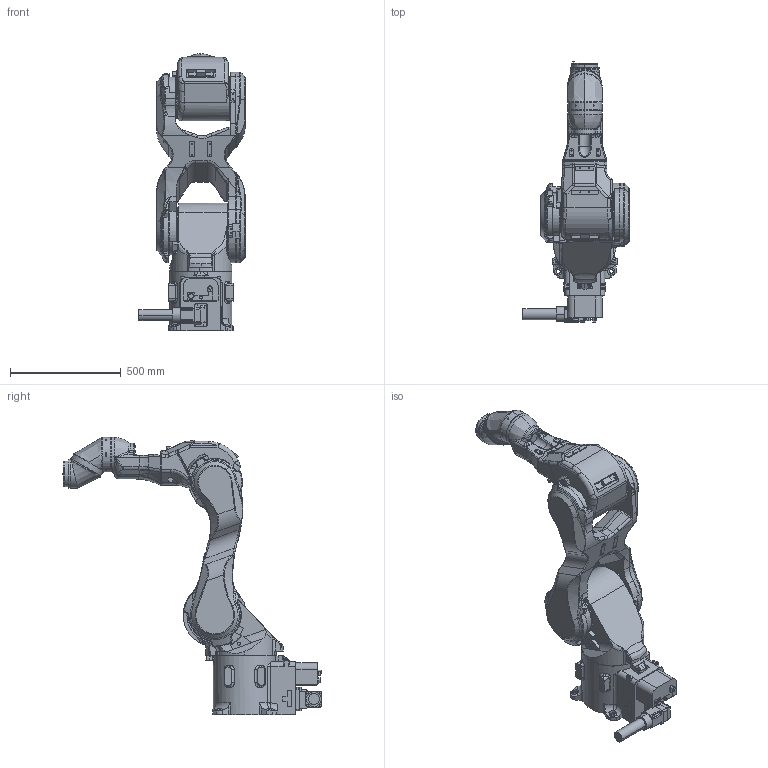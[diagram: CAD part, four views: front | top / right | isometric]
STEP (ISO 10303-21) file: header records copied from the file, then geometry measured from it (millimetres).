
FILE_DESCRIPTION(('CATIA V5 STEP'),'2;1');
FILE_NAME('D:\モデリング\☆☆☆STEP\KJ\KJ125\RARAS_190628\MODEL\KJ125-A001.stp','2019-08-07T02:04:55+00:00',('KHI'),('KHI'),'CATIA Version 5-6 Release 2016 SP4 HF10','CATIA V5 STEP AP203','none');
FILE_SCHEMA(('CONFIG_CONTROL_DESIGN'));
Products named in the file (1): KJ125-A001
Assembly tree (7 placements, depth 2):
  KJ125-A001
    #57
    #15112
    #22945
    #46886
    #73305
    #77487
    #79603
Bounding box: 479.5 x 1175.48 x 1253 mm (x, y, z)
Volume: 94816824 mm3; surface area: 2850015.3 mm2
Topology: 8 solids, 11 shells, 1735 faces, 4495 edges, 2760 vertices
Faces by surface type: plane 603, cylinder 569, bspline 369, cone 93, torus 73, sphere 21, revolution 6, extrusion 1
Entity records: 81138 total; most frequent: CARTESIAN_POINT 44425, ORIENTED_EDGE 8770, DIRECTION 5233, EDGE_CURVE 4385, VERTEX_POINT 2760, AXIS2_PLACEMENT_3D 2220, VECTOR 1891, LINE 1890
